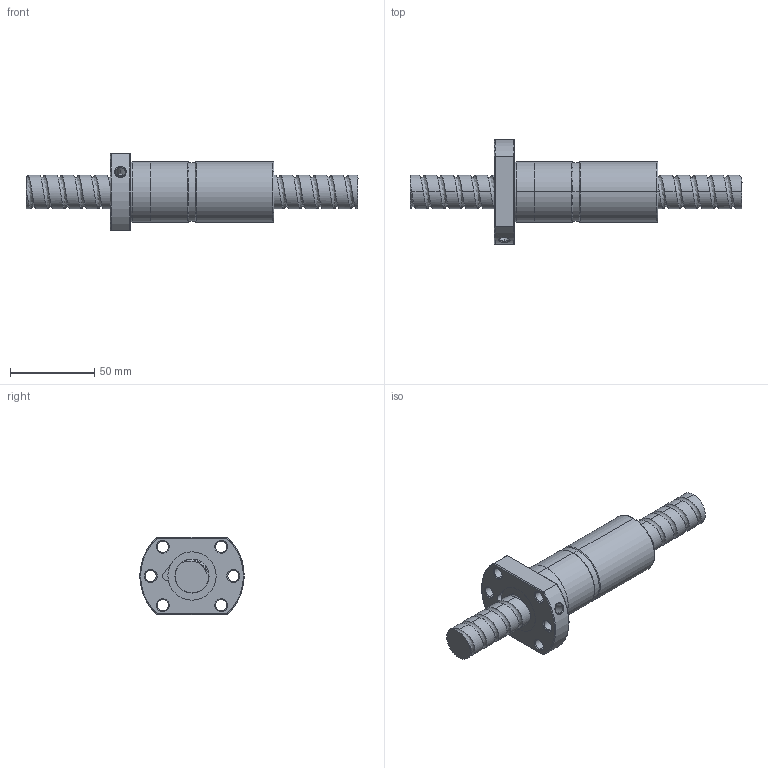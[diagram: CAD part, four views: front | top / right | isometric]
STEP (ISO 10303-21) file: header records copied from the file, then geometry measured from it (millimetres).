
FILE_DESCRIPTION (( 'STEP AP214' ), '1' );
FILE_NAME ('FDDC02010T3-B-C.STEP', '2010-07-06T03:01:17', ( 'XPAUTO' ), ( 'XPAUTO' ), 'SwSTEP 2.0', 'SolidWorks 2007', '' );
FILE_SCHEMA (( 'AUTOMOTIVE_DESIGN' ));
Length unit declared in the file: millimetre
Products named in the file (3): FDDC02010T3-B-C; FDDC02010T3-B-C.sldasm-Part-2_預設; FDDC02010T3-B-C.sldasm-Part-1_預設
Assembly tree (2 placements, depth 2):
  FDDC02010T3-B-C
    FDDC02010T3-B-C.sldasm-Part-2_預設
    FDDC02010T3-B-C.sldasm-Part-1_預設
Bounding box: 197 x 62 x 46 mm (x, y, z)
Volume: 140315.6 mm3; surface area: 38200.9 mm2
Topology: 2 solids, 2 shells, 145 faces, 361 edges, 225 vertices
Faces by surface type: cylinder 84, cone 24, plane 22, torus 10, bspline 5
Entity records: 26464 total; most frequent: CARTESIAN_POINT 23039, ORIENTED_EDGE 722, DIRECTION 663, EDGE_CURVE 361, AXIS2_PLACEMENT_3D 269, VERTEX_POINT 225, EDGE_LOOP 166, FACE_OUTER_BOUND 145
